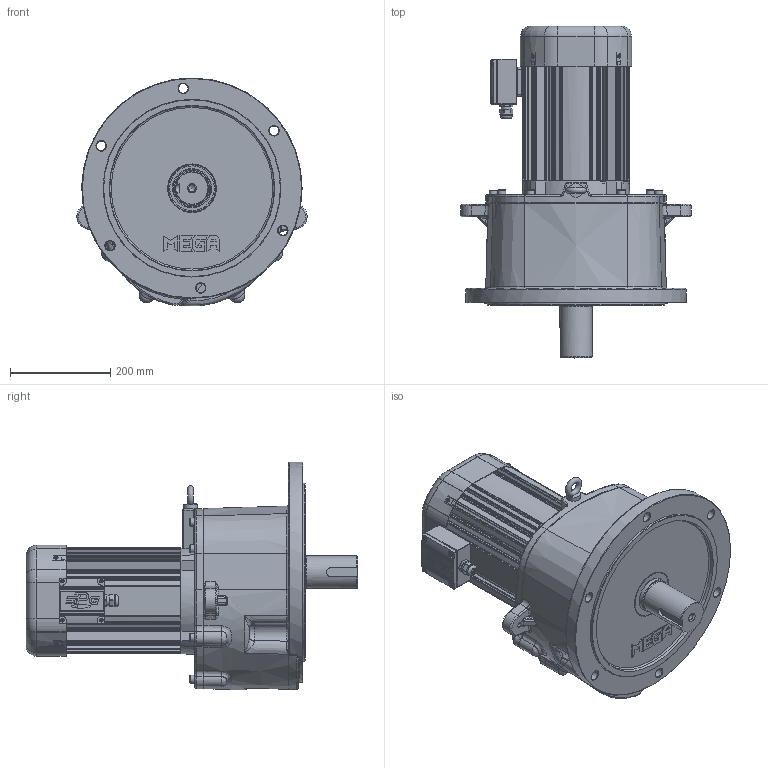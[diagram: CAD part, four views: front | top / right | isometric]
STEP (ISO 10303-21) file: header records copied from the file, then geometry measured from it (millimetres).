
FILE_DESCRIPTION(/* description */ (''),/* implementation_level */ '2;1');
FILE_NAME(/* name */ 'Z:\동력 3D 파일\PMK235_3.7kW_3D.stp',/* time_stamp */ '2021-12-01T09:41:58+09:00',/* author */ ('jaebok'),/* organization */ (''),/* preprocessor_version */ 'ST-DEVELOPER v18.1',/* originating_system */ 'Autodesk Inventor 2022',/* authorisation */ '');
FILE_SCHEMA (('AUTOMOTIVE_DESIGN { 1 0 10303 214 3 1 1 }'));
Products named in the file (1): 부품18
Bounding box: 459.83 x 663 x 455.2 mm (x, y, z)
Volume: 14037792.1 mm3; surface area: 2102096.3 mm2
Topology: 5 solids, 36 shells, 2843 faces, 7208 edges, 4466 vertices
Faces by surface type: plane 987, cylinder 822, bspline 474, torus 291, cone 216, sphere 53
Full cylindrical faces by diameter (mm): 3.25 x1, 3.6 x4, 4 x21, 4.5 x4, 5 x18, 6 x5, 6.647 x4, 7 x8, 8 x5, 8.376 x1, 9 x4, 10 x9, 10.106 x11, 12 x9, 12.5 x1, 13 x8, 13.835 x1, 15 x1, 16 x8, 19 x6, 20 x2, 21 x1, 23.6 x1, 25 x1, 26 x1, 28 x1, 31 x1, 36 x1, 48 x1, 50 x2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
Entity records: 107094 total; most frequent: CARTESIAN_POINT 37828, ORIENTED_EDGE 14214, DIRECTION 13628, EDGE_CURVE 7107, AXIS2_PLACEMENT_3D 5432, VERTEX_POINT 4464, EDGE_LOOP 3113, CIRCLE 2990
